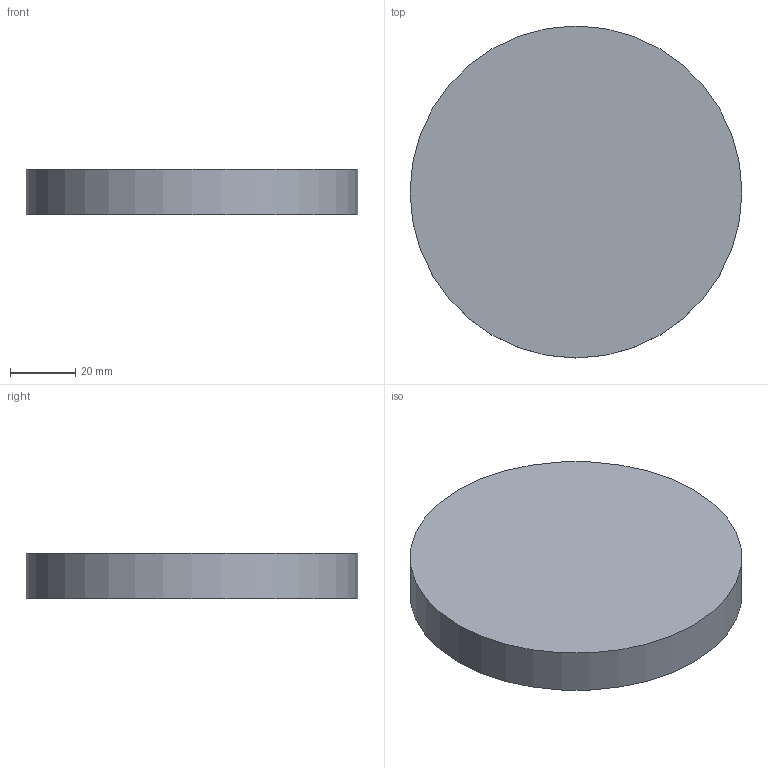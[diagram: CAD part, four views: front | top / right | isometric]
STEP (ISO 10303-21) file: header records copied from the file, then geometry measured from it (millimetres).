
FILE_DESCRIPTION(/* description */ (''),/* implementation_level */ '2;1');
FILE_NAME(/* name */ 'sample.stp',/* time_stamp */ '2026-07-13T09:10:20+03:00',/* author */ ('USER'),/* organization */ (''),/* preprocessor_version */ 'ST-DEVELOPER v20',/* originating_system */ 'Autodesk Inventor 2025',/* authorisation */ '');
FILE_SCHEMA (('AUTOMOTIVE_DESIGN { 1 0 10303 214 3 1 1 }'));
Length unit declared in the file: millimetre
Products named in the file (1): sample
Bounding box: 102 x 102 x 14 mm (x, y, z)
Volume: 114398 mm3; surface area: 20828.8 mm2
Topology: 1 solids, 1 shells, 3 faces, 3 edges, 2 vertices
Faces by surface type: plane 2, cylinder 1
Full cylindrical faces by diameter (mm): 102 x1
Entity records: 100 total; most frequent: DIRECTION 13, CARTESIAN_POINT 9, ORIENTED_EDGE 6, AXIS2_PLACEMENT_3D 6, FACE_OUTER_BOUND 3, EDGE_LOOP 3, EDGE_CURVE 3, ADVANCED_FACE 3
